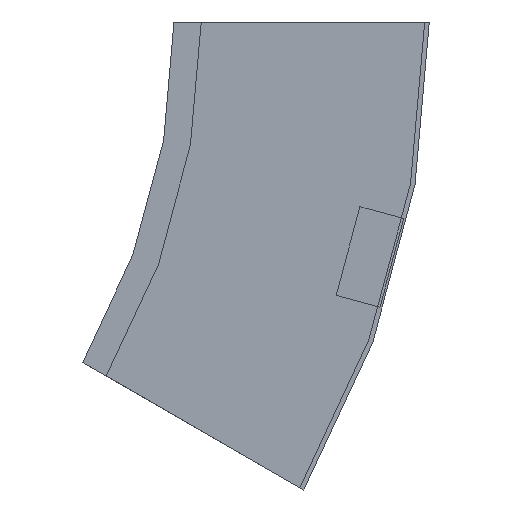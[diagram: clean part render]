
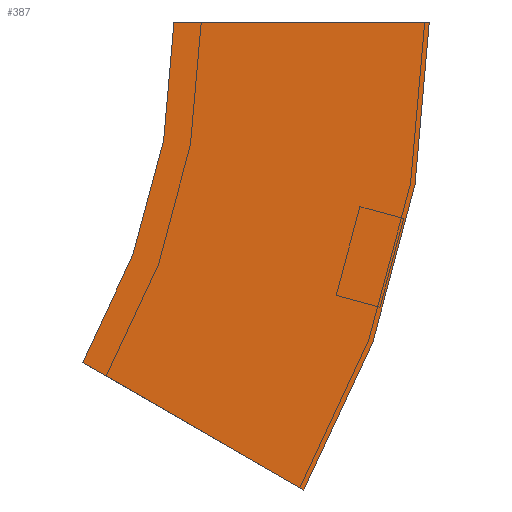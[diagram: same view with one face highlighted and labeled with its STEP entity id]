
A CAD part, left-side view. The second image highlights one B-rep face of the part: STEP entity #387.
In plain terms, the highlighted planar face has unit normal (-1, 0, 0) as drawn and (1, 0, 0) by its records, which use the part's own axes.
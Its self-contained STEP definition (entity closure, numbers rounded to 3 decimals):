
#20 = CIRCLE ( 'NONE', #413, 300. ) ;
#31 = EDGE_CURVE ( 'NONE', #278, #188, #331, .T. ) ;
#37 = ORIENTED_EDGE ( 'NONE', *, *, #382, .F. ) ;
#40 = CARTESIAN_POINT ( 'NONE',  ( 0., -112.5, 0. ) ) ;
#57 = DIRECTION ( 'NONE',  ( 0., 1., 0. ) ) ;
#62 = DIRECTION ( 'NONE',  ( 0., 0., 1. ) ) ;
#68 = EDGE_CURVE ( 'NONE', #188, #169, #429, .T. ) ;
#143 = CARTESIAN_POINT ( 'NONE',  ( 0., 300., 0. ) ) ;
#165 = AXIS2_PLACEMENT_3D ( 'NONE', #442, #399, #62 ) ;
#169 = VERTEX_POINT ( 'NONE', #293 ) ;
#180 = VECTOR ( 'NONE', #277, 1000. ) ;
#188 = VERTEX_POINT ( 'NONE', #329 ) ;
#204 = DIRECTION ( 'NONE',  ( 1., 0., 0. ) ) ;
#218 = DIRECTION ( 'NONE',  ( 0., -1., 0. ) ) ;
#254 = LINE ( 'NONE', #544, #525 ) ;
#256 = VERTEX_POINT ( 'NONE', #479 ) ;
#258 = PLANE ( 'NONE',  #165 ) ;
#277 = DIRECTION ( 'NONE',  ( 0., 0.866, 0.5 ) ) ;
#278 = VERTEX_POINT ( 'NONE', #40 ) ;
#284 = EDGE_LOOP ( 'NONE', ( #37, #370, #480, #503 ) ) ;
#293 = CARTESIAN_POINT ( 'NONE',  ( 0., 40.192, -150. ) ) ;
#305 = DIRECTION ( 'NONE',  ( 1., 0., 0. ) ) ;
#308 = AXIS2_PLACEMENT_3D ( 'NONE', #508, #204, #378 ) ;
#329 = CARTESIAN_POINT ( 'NONE',  ( 0., -57.235, -206.25 ) ) ;
#331 = CIRCLE ( 'NONE', #308, 412.5 ) ;
#370 = ORIENTED_EDGE ( 'NONE', *, *, #545, .F. ) ;
#378 = DIRECTION ( 'NONE',  ( 0., -1., 0. ) ) ;
#382 = EDGE_CURVE ( 'NONE', #256, #169, #20, .T. ) ;
#387 = ADVANCED_FACE ( 'NONE', ( #490 ), #258, .F. ) ;
#399 = DIRECTION ( 'NONE',  ( -1., 0., 0. ) ) ;
#413 = AXIS2_PLACEMENT_3D ( 'NONE', #143, #305, #218 ) ;
#429 = LINE ( 'NONE', #518, #180 ) ;
#442 = CARTESIAN_POINT ( 'NONE',  ( 0., -112.5, 0. ) ) ;
#479 = CARTESIAN_POINT ( 'NONE',  ( 0., 0., 0. ) ) ;
#480 = ORIENTED_EDGE ( 'NONE', *, *, #31, .T. ) ;
#490 = FACE_OUTER_BOUND ( 'NONE', #284, .T. ) ;
#503 = ORIENTED_EDGE ( 'NONE', *, *, #68, .T. ) ;
#508 = CARTESIAN_POINT ( 'NONE',  ( 0., 300., 0. ) ) ;
#518 = CARTESIAN_POINT ( 'NONE',  ( 0., -57.235, -206.25 ) ) ;
#525 = VECTOR ( 'NONE', #57, 1000. ) ;
#544 = CARTESIAN_POINT ( 'NONE',  ( 0., -112.5, 0. ) ) ;
#545 = EDGE_CURVE ( 'NONE', #278, #256, #254, .T. ) ;
